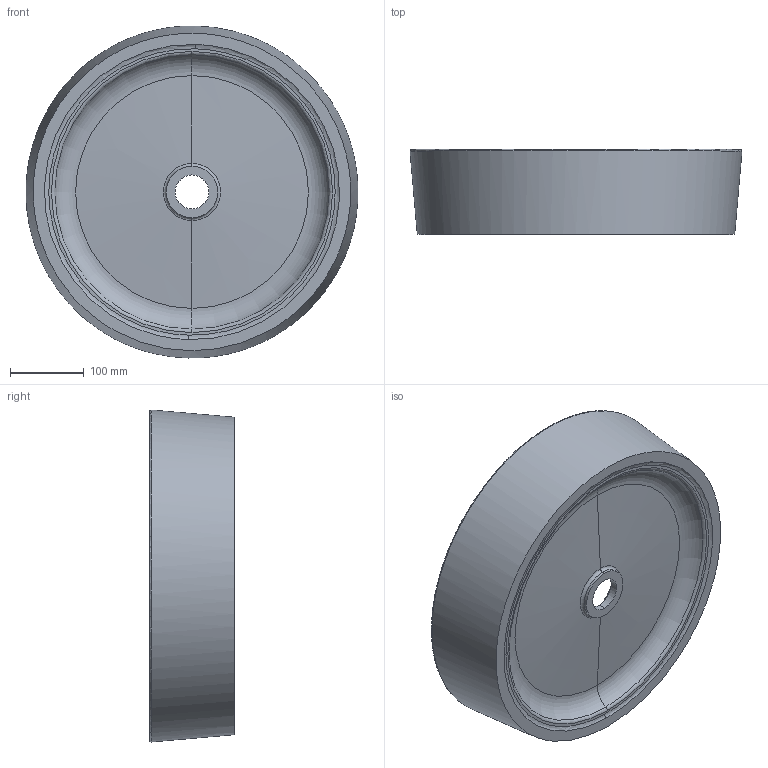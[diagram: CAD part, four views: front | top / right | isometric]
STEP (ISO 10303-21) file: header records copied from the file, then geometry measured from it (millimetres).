
FILE_DESCRIPTION (( 'STEP AP203' ), '1' );
FILE_NAME ('lp145.STEP', '2020-01-27T06:49:08', ( '' ), ( '' ), 'SwSTEP 2.0', 'SolidWorks 2019', '' );
FILE_SCHEMA (( 'CONFIG_CONTROL_DESIGN' ));
Length unit declared in the file: millimetre
Products named in the file (1): lp145
Bounding box: 449.88 x 115.1 x 449.97 mm (x, y, z)
Volume: 3817592.8 mm3; surface area: 558247.9 mm2
Topology: 1 solids, 1 shells, 33 faces, 66 edges, 38 vertices
Faces by surface type: torus 12, cone 8, bspline 5, cylinder 4, plane 4
Entity records: 4291 total; most frequent: CARTESIAN_POINT 3527, DIRECTION 158, ORIENTED_EDGE 132, AXIS2_PLACEMENT_3D 73, EDGE_CURVE 66, CIRCLE 44, VERTEX_POINT 38, EDGE_LOOP 38
